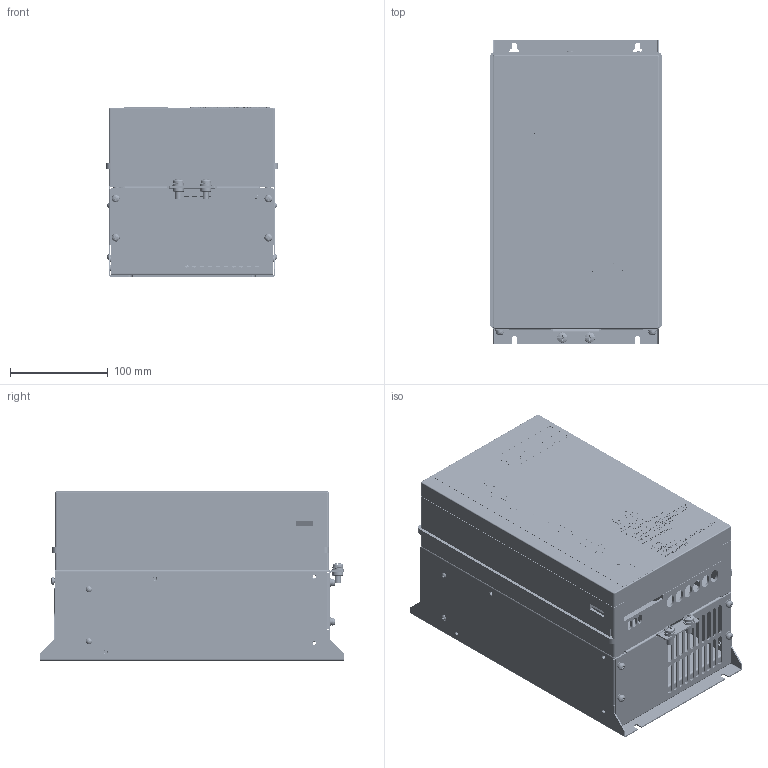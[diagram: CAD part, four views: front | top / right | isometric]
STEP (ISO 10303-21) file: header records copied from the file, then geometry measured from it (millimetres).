
FILE_DESCRIPTION((''),'2;1');
FILE_NAME('SK300-7-5KW_ASM','2019-04-16T',('U325758'),('Danfoss Drives A/S'),'CREO PARAMETRIC BY PTC INC, 2015480','CREO PARAMETRIC BY PTC INC, 2015480','');
FILE_SCHEMA(('CONFIG_CONTROL_DESIGN','GEOMETRIC_VALIDATION_PROPERTIES_MIM'));
Products named in the file (33): 133G0570; 133G0572; P_TPS_4_8; 133G0572_ASM; RIVETING-NUT-4; 133G0570_ASM; 133G0554; 133B3089; LINE10; 133G0554_ASM; 133B1786; 133B6075; 133B1674; 133B1666; 133B6075_ASM; 133G0571; EM-S-M6-ZC; 133G0571_ASM; 133B4666; SPRING-M6; PLAIN-CUSHION-M6; 133B4666_ASM; 133B4257; 133G0573; 133Z1005; 133G0573_ASM; 133G0574; 133G0548_01; 133G0548_02; 133Z1007; 133G0575; 133G0556; SK300-7-5KW_ASM
Assembly tree (50 placements, depth 4):
  SK300-7-5KW_ASM
    133G0570_ASM
      133G0570
      133G0572_ASM
        133G0572
        P_TPS_4_8  x2
      RIVETING-NUT-4  x4
    133G0554_ASM
      133G0554
      133B3089
      LINE10
    133B1786
    133B6075_ASM  x6
      133B6075
      133B1674
      133B1666
    133G0571_ASM
      133G0571
      EM-S-M6-ZC  x2
    133B4666_ASM  x2
      133B4666
      SPRING-M6
      PLAIN-CUSHION-M6
    133B4257  x8
    133G0573_ASM
      133G0573
      133Z1005
    133G0574
    133G0548_01
    133G0548_02
    133Z1007
    133G0575
    133G0556
Bounding box: 176 x 310 x 173.4 mm (x, y, z)
Volume: 836338.8 mm3; surface area: 880399.8 mm2
Topology: 101 solids, 139 shells, 9455 faces, 25323 edges, 16606 vertices
Faces by surface type: plane 4727, extrusion 3104, cylinder 985, bspline 257, torus 187, cone 151, sphere 44
Entity records: 346278 total; most frequent: CARTESIAN_POINT 85841, ORIENTED_EDGE 46812, DIRECTION 33122, EDGE_CURVE 23460, VECTOR 17858, VERTEX_POINT 15449, PRESENTATION_STYLE_ASSIGNMENT 15250, STYLED_ITEM 14986
